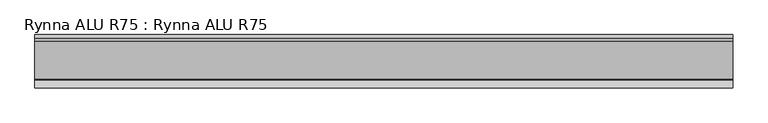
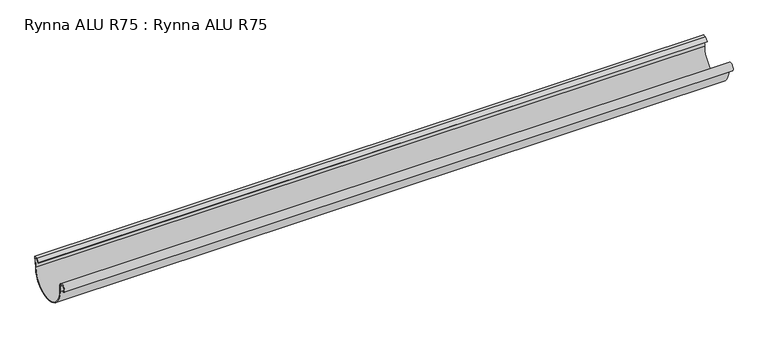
"""IFC4 building model written with IfcOpenShell, lengths in millimetres: proxy geometry, Rynna ALU R75 : Rynna ALU R75."""

import ifcopenshell
import ifcopenshell.guid

model = None  # the IFC model being written
_history = None  # IfcOwnerHistory: only IFC2X3 demands one
_inside = {}  # id of a spatial element -> (the spatial element, [elements in it])
_under = {}  # id of a project, library or spatial element -> (it, [spatial elements below it])
_declared = {}  # id of a project -> (the project, [libraries it declares])
_typed = {}  # id of a type object -> (the type object, [elements of that type])
_made_of = {}  # id of a material, layer set ... -> (it, [elements and type objects made of it])


def new_model(schema):
    """Start an empty IFC model of exactly this schema.

    Asked for "IFC4X3", IfcOpenShell would pick the latest addendum, in which some entities
    have other attributes; the version numbers below select the first issue.
    IFC2X3 requires an IfcOwnerHistory on every rooted entity: one is made here for all.
    """
    global model, _history
    if schema == "IFC4X3":
        model = ifcopenshell.file(schema_version=(4, 3, 0, 0))
    else:
        model = ifcopenshell.file(schema=schema)
    _inside.clear()
    _under.clear()
    _declared.clear()
    _typed.clear()
    _made_of.clear()
    _history = None
    if model.schema == "IFC2X3":
        org = make("IfcOrganization", Name="unknown")
        user = make(
            "IfcPersonAndOrganization",
            ThePerson=make("IfcPerson", FamilyName="unknown"),
            TheOrganization=org,
        )
        app = make(
            "IfcApplication",
            ApplicationDeveloper=org,
            Version="unknown",
            ApplicationFullName="unknown",
            ApplicationIdentifier="unknown",
        )
        _history = make(
            "IfcOwnerHistory",
            OwningUser=user,
            OwningApplication=app,
            ChangeAction="ADDED",
            CreationDate=0,
        )
    return model


def make(cls, **values):
    """One entity of the class cls with the attributes given. An attribute that is None is left unset."""
    return model.create_entity(
        cls, **{name: value for name, value in values.items() if value is not None}
    )


def rooted(cls, **values):
    """An entity with a GlobalId (a new one), such as an element, a storey or a relation."""
    return make(cls, GlobalId=ifcopenshell.guid.new(), OwnerHistory=_history, **values)


def si_unit(unit_type, name, prefix=None):
    """IfcSIUnit, for example si_unit("LENGTHUNIT", "METRE", prefix="MILLI")."""
    return make("IfcSIUnit", UnitType=unit_type, Prefix=prefix, Name=name)


def assignment(units):
    """IfcUnitAssignment: the units of a project."""
    return None if units is None else make("IfcUnitAssignment", Units=units)


def point(xyz):
    """IfcCartesianPoint."""
    return None if xyz is None else make("IfcCartesianPoint", Coordinates=xyz)


def direction(xyz):
    """IfcDirection."""
    return None if xyz is None else make("IfcDirection", DirectionRatios=xyz)


def frame(location, z_axis=None, x_axis=None):
    """IfcAxis2Placement3D, a coordinate frame: its origin and axes. An axis left out is left unset."""
    return make(
        "IfcAxis2Placement3D",
        Location=point(location),
        Axis=direction(z_axis),
        RefDirection=direction(x_axis),
    )


def frame_2d(location, x_axis=None):
    """IfcAxis2Placement2D, a coordinate frame in the plane: its origin and x axis."""
    return make(
        "IfcAxis2Placement2D", Location=point(location), RefDirection=direction(x_axis)
    )


def origin():
    """The frame at (0, 0, 0) with its axes left unset."""
    return frame((0.0, 0.0, 0.0))


def place(relative_to, where):
    """IfcLocalPlacement: puts the frame where relative to a parent placement (None: the world)."""
    return make(
        "IfcLocalPlacement", PlacementRelTo=relative_to, RelativePlacement=where
    )


def context(
    kind, dimensions, precision=None, world=None, true_north=None, identifier=None
):
    """IfcGeometricRepresentationContext, for example the 3D "Model" context."""
    return make(
        "IfcGeometricRepresentationContext",
        ContextIdentifier=identifier,
        ContextType=kind,
        CoordinateSpaceDimension=dimensions,
        Precision=precision,
        WorldCoordinateSystem=world,
        TrueNorth=true_north,
    )


def project(units=None, contexts=None):
    """IfcProject with its units and contexts."""
    return rooted(
        "IfcProject",
        Name="project",
        RepresentationContexts=contexts,
        UnitsInContext=assignment(units),
    )


def spatial(cls, under=None, at=None, **own):
    """A site, building, storey or space (cls), placed at a placement, below another one or the project."""
    s = rooted(cls, ObjectPlacement=at, **own)
    if under is not None:
        _under.setdefault(under.id(), (under, []))[1].append(s)
    return s


def polyline(points):
    """IfcPolyline through the points."""
    return make("IfcPolyline", Points=[point(p) for p in points])


def circle_curve(where, radius):
    """IfcCircle in the frame where."""
    return make("IfcCircle", Position=where, Radius=radius)


def trimmed(basis, trim1, trim2, sense, master):
    """IfcTrimmedCurve: the piece of a basis curve between two trims."""
    return make(
        "IfcTrimmedCurve",
        BasisCurve=basis,
        Trim1=trim1,
        Trim2=trim2,
        SenseAgreement=sense,
        MasterRepresentation=master,
    )


def segment(curve, same_sense, transition):
    """IfcCompositeCurveSegment."""
    return make(
        "IfcCompositeCurveSegment",
        Transition=transition,
        SameSense=same_sense,
        ParentCurve=curve,
    )


def composite_curve(segments, self_intersect=None):
    """IfcCompositeCurve: segments joined end to end."""
    return make("IfcCompositeCurve", Segments=segments, SelfIntersect=self_intersect)


def outline(outer, holes=None, kind="AREA"):
    """IfcArbitraryClosedProfileDef: a profile drawn as a closed curve; with holes, ...WithVoids."""
    if holes is None:
        return make("IfcArbitraryClosedProfileDef", ProfileType=kind, OuterCurve=outer)
    return make(
        "IfcArbitraryProfileDefWithVoids",
        ProfileType=kind,
        OuterCurve=outer,
        InnerCurves=holes,
    )


def extrude(swept, where, along, depth):
    """IfcExtrudedAreaSolid: the profile swept, set in the frame where, extruded along a direction by depth."""
    return make(
        "IfcExtrudedAreaSolid",
        SweptArea=swept,
        Position=where,
        ExtrudedDirection=direction(along),
        Depth=depth,
    )


def shape(context_of_items, identifier, shape_type, items):
    """IfcShapeRepresentation: the items that make up one representation, for example the "Body"."""
    return make(
        "IfcShapeRepresentation",
        ContextOfItems=context_of_items,
        RepresentationIdentifier=identifier,
        RepresentationType=shape_type,
        Items=items,
    )


def source(mapping_origin, context_of_items, identifier, shape_type, items):
    """IfcRepresentationMap: a shape defined once, which mapped items show again and again."""
    return make(
        "IfcRepresentationMap",
        MappingOrigin=mapping_origin,
        MappedRepresentation=shape(context_of_items, identifier, shape_type, items),
    )


def transform(
    local_origin,
    x_axis=None,
    y_axis=None,
    z_axis=None,
    scale=None,
    scale2=None,
    scale3=None,
    uniform=True,
):
    """IfcCartesianTransformationOperator3D, or its non-uniform kind. x_axis, y_axis, z_axis: its Axis1, 2, 3."""
    if uniform:
        return make(
            "IfcCartesianTransformationOperator3D",
            Axis1=direction(x_axis),
            Axis2=direction(y_axis),
            LocalOrigin=point(local_origin),
            Scale=scale,
            Axis3=direction(z_axis),
        )
    return make(
        "IfcCartesianTransformationOperator3DnonUniform",
        Axis1=direction(x_axis),
        Axis2=direction(y_axis),
        LocalOrigin=point(local_origin),
        Scale=scale,
        Axis3=direction(z_axis),
        Scale2=scale2,
        Scale3=scale3,
    )


def mapped(mapping_source, mapping_target):
    """IfcMappedItem: shows the shape of a source again, moved by a transform."""
    return make(
        "IfcMappedItem", MappingSource=mapping_source, MappingTarget=mapping_target
    )


def made_of(thing, what):
    """Note that an element or type object is made of a material, layer set ...; save() writes the relation."""
    if what is not None:
        _made_of.setdefault(what.id(), (what, []))[1].append(thing)
    return thing


def element(
    cls,
    number,
    at=None,
    inside=None,
    cuts=None,
    type_object=None,
    material=None,
    context=None,
    identifier="Body",
    shape_type=None,
    held_by="IfcProductDefinitionShape",
    body=None,
    shapes=None,
    **own,
):
    """One element of the class cls, such as IfcWall. Its Tag is "e" and its number.

    at: its placement. inside: the storey or other place that contains it. cuts: it is an
    opening in that element (IfcRelVoidsElement). A single representation is given by context,
    identifier, shape_type and body (its items); several are given by shapes. held_by: the class
    of the entity that holds the representations. save() writes the other relations.
    """
    e = rooted(cls, Tag="e%d" % number, ObjectPlacement=at, **own)
    if body is not None:
        shapes = [shape(context, identifier, shape_type, body)]
    if shapes is not None:
        e.Representation = make(held_by, Representations=shapes)
    if inside is not None:
        _inside.setdefault(inside.id(), (inside, []))[1].append(e)
    if cuts is not None:
        rooted(
            "IfcRelVoidsElement", RelatingBuildingElement=cuts, RelatedOpeningElement=e
        )
    if type_object is not None:
        _typed.setdefault(type_object.id(), (type_object, []))[1].append(e)
    return made_of(e, material)


def aggregate(whole, parts):
    """IfcRelAggregates: a whole, such as a stair, and the parts it consists of."""
    return rooted("IfcRelAggregates", RelatingObject=whole, RelatedObjects=parts)


def save(model, path):
    """Write the relations noted so far, then the file.

    IfcRelAggregates (storeys below a building ...), IfcRelContainedInSpatialStructure (elements
    in a storey), IfcRelDefinesByType, IfcRelAssociatesMaterial and IfcRelDeclares: one each for
    every whole, place, type object, material and project.
    """
    for whole, parts in _under.values():
        aggregate(whole, parts)
    for where, things in _inside.values():
        rooted(
            "IfcRelContainedInSpatialStructure",
            RelatedElements=things,
            RelatingStructure=where,
        )
    for kind, things in _typed.values():
        rooted("IfcRelDefinesByType", RelatedObjects=things, RelatingType=kind)
    for what, things in _made_of.values():
        rooted("IfcRelAssociatesMaterial", RelatedObjects=things, RelatingMaterial=what)
    for by, libraries in _declared.values():
        rooted("IfcRelDeclares", RelatingContext=by, RelatedDefinitions=libraries)
    model.write(path)


def rynna_alu_r75_rynna_alu_r75_52cbeec6(model_context):
    return source(origin(), model_context, "Body", "SweptSolid", [
        extrude(outline(composite_curve([segment(polyline([(-77.0000001, -18.8928858), (-77.0000001, -9.298839)]), True, "CONTINUOUS"), segment(trimmed(circle_curve(frame_2d((-83.065591, -8.6518374)), 6.1000004), [point((-77.0000001, -9.298839))], [point((-86.1676128, -13.9042145))], True, "CARTESIAN"), True, "CONTINUOUS"), segment(polyline([(-86.1676128, -13.9042145), (-86.1676128, -15.0383413)]), True, "CONTINUOUS"), segment(trimmed(circle_curve(frame_2d((-83.0655965, -8.651839)), 7.0999941), [point((-86.1676128, -15.0383413))], [point((-76.0000118, -9.3500002))], False, "CARTESIAN"), True, "CONTINUOUS"), segment(polyline([(-76.0000118, -9.3500002), (-76.0000118, -18.8754102)]), True, "CONTINUOUS"), segment(trimmed(circle_curve(frame_2d((-39.5000101, -18.8754102)), 36.5000017), [point((-76.0000118, -18.8754102))], [point((-3.0000084, -18.8754102))], True, "CARTESIAN"), True, "CONTINUOUS"), segment(polyline([(-3.0000084, -18.8754102), (-1.1093439, -0.9821469)]), True, "CONTINUOUS"), segment(trimmed(circle_curve(frame_2d((-0.8393369, -17.5562346)), 16.5762868), [point((-1.1093439, -0.9821469))], [point((-4.8989693, -1.4847483))], True, "CARTESIAN"), True, "CONTINUOUS"), segment(polyline([(-4.8989693, -1.4847483), (-10.02274, -6.608519), (-10.7298468, -5.9014122), (-5.4142136, -0.585779)]), True, "CONTINUOUS"), segment(trimmed(circle_curve(frame_2d((-0.8393369, -17.5562346)), 17.5762868), [point((-5.4142136, -0.585779))], [point((0.0, 0.0))], False, "CARTESIAN"), True, "CONTINUOUS"), segment(polyline([(0.0, 0.0), (-2.0, -18.8928858)]), True, "CONTINUOUS"), segment(trimmed(circle_curve(frame_2d((-39.5, -18.8928858)), 37.5), [point((-2.0, -18.8928858))], [point((-77.0000001, -18.8928858))], False, "CARTESIAN"), True, "CONTINUOUS")], self_intersect=False)), frame((-590.0, 0.0, 0.0), z_axis=(1.0, 0.0, 0.0), x_axis=(0.0, 1.0, 0.0)), (0.0, 0.0, 1.0), 1180.0),
    ])


if __name__ == "__main__":
    model = new_model("IFC4")
    model_context = context("Model", 3, world=origin())
    ifc_project = project(units=[si_unit("LENGTHUNIT", "METRE", prefix="MILLI")], contexts=[model_context])
    site = spatial("IfcSite", under=ifc_project)
    building = spatial("IfcBuilding", under=site)
    placement = place(None, origin())
    rynna_alu_r75_rynna_alu_r75_shape = rynna_alu_r75_rynna_alu_r75_52cbeec6(model_context)
    element("IfcBuildingElementProxy", 1, Name="Rynna ALU R75 : Rynna ALU R75", ObjectType="Rynna ALU R75 : Rynna ALU R75", at=placement, inside=building, context=model_context, shape_type="MappedRepresentation", body=[
        mapped(rynna_alu_r75_rynna_alu_r75_shape, transform((0.0, 0.0, 0.0), x_axis=(1.0, 0.0, 0.0), y_axis=(0.0, 1.0, 0.0), z_axis=(0.0, 0.0, 1.0))),
    ])
    save(model, "model.ifc")
